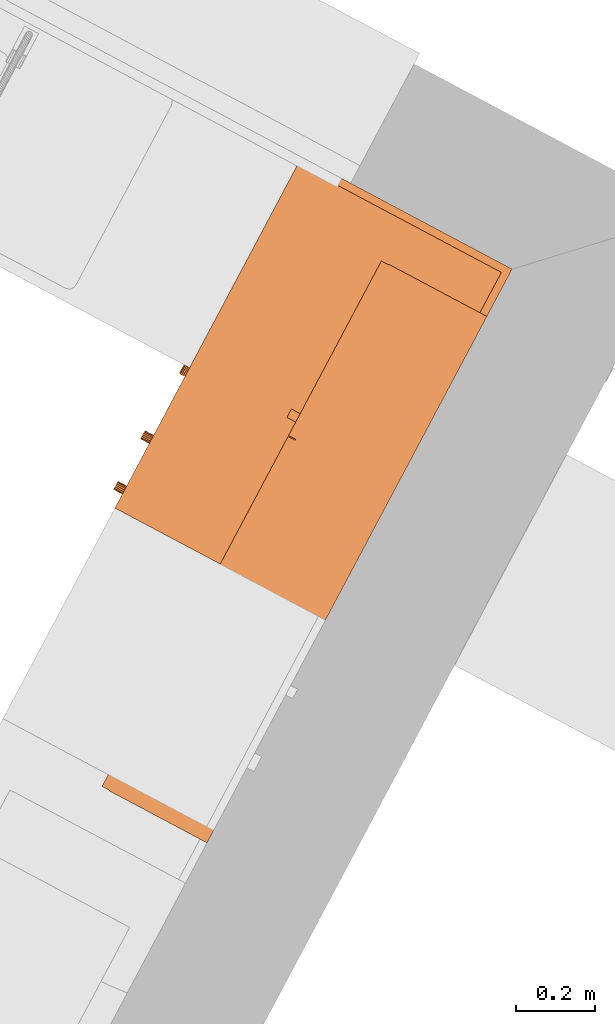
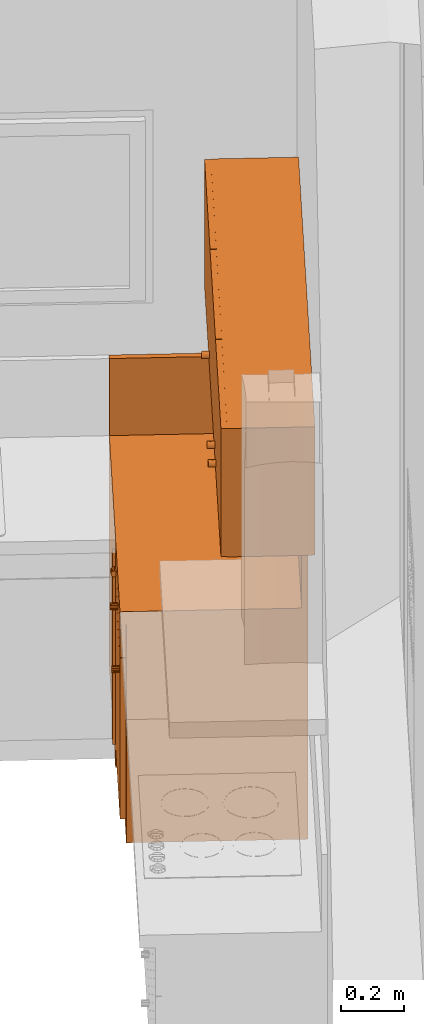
# One storey, part 25 of 27: 2 proxies.
"""IFC2X3 building model written with IfcOpenShell, lengths in metres."""

import ifcopenshell
import ifcopenshell.guid

model = None  # the IFC model being written
_history = None  # IfcOwnerHistory: only IFC2X3 demands one
_inside = {}  # id of a spatial element -> (the spatial element, [elements in it])
_under = {}  # id of a project, library or spatial element -> (it, [spatial elements below it])
_declared = {}  # id of a project -> (the project, [libraries it declares])
_typed = {}  # id of a type object -> (the type object, [elements of that type])
_made_of = {}  # id of a material, layer set ... -> (it, [elements and type objects made of it])


def new_model(schema):
    """Start an empty IFC model of exactly this schema.

    Asked for "IFC4X3", IfcOpenShell would pick the latest addendum, in which some entities
    have other attributes; the version numbers below select the first issue.
    IFC2X3 requires an IfcOwnerHistory on every rooted entity: one is made here for all.
    """
    global model, _history
    if schema == "IFC4X3":
        model = ifcopenshell.file(schema_version=(4, 3, 0, 0))
    else:
        model = ifcopenshell.file(schema=schema)
    _inside.clear()
    _under.clear()
    _declared.clear()
    _typed.clear()
    _made_of.clear()
    _history = None
    if model.schema == "IFC2X3":
        org = make("IfcOrganization", Name="unknown")
        user = make(
            "IfcPersonAndOrganization",
            ThePerson=make("IfcPerson", FamilyName="unknown"),
            TheOrganization=org,
        )
        app = make(
            "IfcApplication",
            ApplicationDeveloper=org,
            Version="unknown",
            ApplicationFullName="unknown",
            ApplicationIdentifier="unknown",
        )
        _history = make(
            "IfcOwnerHistory",
            OwningUser=user,
            OwningApplication=app,
            ChangeAction="ADDED",
            CreationDate=0,
        )
    return model


def make(cls, **values):
    """One entity of the class cls with the attributes given. An attribute that is None is left unset."""
    return model.create_entity(
        cls, **{name: value for name, value in values.items() if value is not None}
    )


def entity(cls, *values):
    """Any entity or typed value of the class cls, its attributes in the order of the schema. None: left unset."""
    e = model.create_entity(cls)
    for i, value in enumerate(values):
        if value is not None:
            e[i] = value
    return e


def rooted(cls, **values):
    """An entity with a GlobalId (a new one), such as an element, a storey or a relation."""
    return make(cls, GlobalId=ifcopenshell.guid.new(), OwnerHistory=_history, **values)


def si_unit(unit_type, name, prefix=None):
    """IfcSIUnit, for example si_unit("LENGTHUNIT", "METRE", prefix="MILLI")."""
    return make("IfcSIUnit", UnitType=unit_type, Prefix=prefix, Name=name)


def converted_unit(unit_type, name, factor, base, dimensions=None, offset=None):
    """IfcConversionBasedUnit, such as the inch: factor (a typed value) times the base unit."""
    return make(
        "IfcConversionBasedUnit"
        if offset is None
        else "IfcConversionBasedUnitWithOffset",
        ConversionOffset=offset,
        Dimensions=None
        if dimensions is None
        else entity("IfcDimensionalExponents", *dimensions),
        UnitType=unit_type,
        Name=name,
        ConversionFactor=make(
            "IfcMeasureWithUnit", ValueComponent=factor, UnitComponent=base
        ),
    )


def derived_unit(unit_type, elements):
    """IfcDerivedUnit: a product of units, each with its exponent."""
    return make(
        "IfcDerivedUnit",
        Elements=[
            make("IfcDerivedUnitElement", Unit=unit, Exponent=power)
            for unit, power in elements
        ],
        UnitType=unit_type,
    )


def money_unit(currency):
    """IfcMonetaryUnit."""
    return make("IfcMonetaryUnit", Currency=currency)


def assignment(units):
    """IfcUnitAssignment: the units of a project."""
    return None if units is None else make("IfcUnitAssignment", Units=units)


def point(xyz):
    """IfcCartesianPoint."""
    return None if xyz is None else make("IfcCartesianPoint", Coordinates=xyz)


def direction(xyz):
    """IfcDirection."""
    return None if xyz is None else make("IfcDirection", DirectionRatios=xyz)


def frame(location, z_axis=None, x_axis=None):
    """IfcAxis2Placement3D, a coordinate frame: its origin and axes. An axis left out is left unset."""
    return make(
        "IfcAxis2Placement3D",
        Location=point(location),
        Axis=direction(z_axis),
        RefDirection=direction(x_axis),
    )


def origin_with_axes():
    """The frame at (0, 0, 0) with the z axis (0, 0, 1) and the x axis (1, 0, 0) written out."""
    return frame((0.0, 0.0, 0.0), z_axis=(0.0, 0.0, 1.0), x_axis=(1.0, 0.0, 0.0))


def place(relative_to, where):
    """IfcLocalPlacement: puts the frame where relative to a parent placement (None: the world)."""
    return make(
        "IfcLocalPlacement", PlacementRelTo=relative_to, RelativePlacement=where
    )


def context(
    kind, dimensions, precision=None, world=None, true_north=None, identifier=None
):
    """IfcGeometricRepresentationContext, for example the 3D "Model" context."""
    return make(
        "IfcGeometricRepresentationContext",
        ContextIdentifier=identifier,
        ContextType=kind,
        CoordinateSpaceDimension=dimensions,
        Precision=precision,
        WorldCoordinateSystem=world,
        TrueNorth=true_north,
    )


def subcontext(parent, identifier, kind, view, scale=None):
    """IfcGeometricRepresentationSubContext, for example "Body" below "Model"."""
    return make(
        "IfcGeometricRepresentationSubContext",
        ContextIdentifier=identifier,
        ContextType=kind,
        ParentContext=parent,
        TargetScale=scale,
        TargetView=view,
    )


def project(units=None, contexts=None):
    """IfcProject with its units and contexts."""
    return rooted(
        "IfcProject",
        Name="project",
        RepresentationContexts=contexts,
        UnitsInContext=assignment(units),
    )


def spatial(cls, under=None, at=None, **own):
    """A site, building, storey or space (cls), placed at a placement, below another one or the project."""
    s = rooted(cls, ObjectPlacement=at, **own)
    if under is not None:
        _under.setdefault(under.id(), (under, []))[1].append(s)
    return s


def faces_of(points, faces, orient=None, outer=None):
    """IfcFace entities. A face is a list of loops; a loop is a list of indices into points, from 0.

    orient and outer hold one flag for each loop. By default every Orientation is true, the
    first loop of a face is its IfcFaceOuterBound and the others are IfcFaceBound.
    """
    made = []
    for i, loops in enumerate(faces):
        bounds = []
        for j, loop in enumerate(loops):
            is_outer = j == 0 if outer is None else outer[i][j]
            bounds.append(
                make(
                    "IfcFaceOuterBound" if is_outer else "IfcFaceBound",
                    Bound=make("IfcPolyLoop", Polygon=[points[k] for k in loop]),
                    Orientation=True if orient is None else orient[i][j],
                )
            )
        made.append(make("IfcFace", Bounds=bounds))
    return made


def open_shell(faces, orient=None, outer=None):
    """The faces of one IfcOpenShell. surface_model builds it on its shared points."""
    return ("IfcOpenShell", faces, orient, outer)


def faceted_brep(points, faces, orient=None, outer=None, voids=None):
    """IfcFacetedBrep: a solid bounded by flat faces; with voids (closed shells), ...WithVoids."""
    shared = [point(p) for p in points]
    hull = make("IfcClosedShell", CfsFaces=faces_of(shared, faces, orient, outer))
    if voids is None:
        return make("IfcFacetedBrep", Outer=hull)
    return make(
        "IfcFacetedBrepWithVoids",
        Outer=hull,
        Voids=[
            make(cls, CfsFaces=faces_of(shared, fs, o, b)) for cls, fs, o, b in voids
        ],
    )


def surface_model(cls, points, shells):
    """IfcFaceBasedSurfaceModel or IfcShellBasedSurfaceModel (cls): surfaces that need not close."""
    shared = [point(p) for p in points]
    made = [make(c, CfsFaces=faces_of(shared, fs, o, b)) for c, fs, o, b in shells]
    if cls == "IfcFaceBasedSurfaceModel":
        return make(cls, FbsmFaces=made)
    return make(cls, SbsmBoundary=made)


def shape(context_of_items, identifier, shape_type, items):
    """IfcShapeRepresentation: the items that make up one representation, for example the "Body"."""
    return make(
        "IfcShapeRepresentation",
        ContextOfItems=context_of_items,
        RepresentationIdentifier=identifier,
        RepresentationType=shape_type,
        Items=items,
    )


def made_of(thing, what):
    """Note that an element or type object is made of a material, layer set ...; save() writes the relation."""
    if what is not None:
        _made_of.setdefault(what.id(), (what, []))[1].append(thing)
    return thing


def type_object(cls, material=None, **own):
    """A type object (cls), such as IfcWallType, which elements share."""
    return made_of(rooted(cls, **own), material)


def element(
    cls,
    number,
    at=None,
    inside=None,
    cuts=None,
    type_object=None,
    material=None,
    context=None,
    identifier="Body",
    shape_type=None,
    held_by="IfcProductDefinitionShape",
    body=None,
    shapes=None,
    **own,
):
    """One element of the class cls, such as IfcWall. Its Tag is "e" and its number.

    at: its placement. inside: the storey or other place that contains it. cuts: it is an
    opening in that element (IfcRelVoidsElement). A single representation is given by context,
    identifier, shape_type and body (its items); several are given by shapes. held_by: the class
    of the entity that holds the representations. save() writes the other relations.
    """
    e = rooted(cls, Tag="e%d" % number, ObjectPlacement=at, **own)
    if body is not None:
        shapes = [shape(context, identifier, shape_type, body)]
    if shapes is not None:
        e.Representation = make(held_by, Representations=shapes)
    if inside is not None:
        _inside.setdefault(inside.id(), (inside, []))[1].append(e)
    if cuts is not None:
        rooted(
            "IfcRelVoidsElement", RelatingBuildingElement=cuts, RelatedOpeningElement=e
        )
    if type_object is not None:
        _typed.setdefault(type_object.id(), (type_object, []))[1].append(e)
    return made_of(e, material)


def aggregate(whole, parts):
    """IfcRelAggregates: a whole, such as a stair, and the parts it consists of."""
    return rooted("IfcRelAggregates", RelatingObject=whole, RelatedObjects=parts)


def save(model, path):
    """Write the relations noted so far, then the file.

    IfcRelAggregates (storeys below a building ...), IfcRelContainedInSpatialStructure (elements
    in a storey), IfcRelDefinesByType, IfcRelAssociatesMaterial and IfcRelDeclares: one each for
    every whole, place, type object, material and project.
    """
    for whole, parts in _under.values():
        aggregate(whole, parts)
    for where, things in _inside.values():
        rooted(
            "IfcRelContainedInSpatialStructure",
            RelatedElements=things,
            RelatingStructure=where,
        )
    for kind, things in _typed.values():
        rooted("IfcRelDefinesByType", RelatedObjects=things, RelatingType=kind)
    for what, things in _made_of.values():
        rooted("IfcRelAssociatesMaterial", RelatedObjects=things, RelatingMaterial=what)
    for by, libraries in _declared.values():
        rooted("IfcRelDeclares", RelatingContext=by, RelatedDefinitions=libraries)
    model.write(path)


model = new_model("IFC2X3")

# Units and contexts
model_context = context("Model", 3, precision=1e-05, world=origin_with_axes(), true_north=direction((0.0, 1.0)))
body_context = subcontext(model_context, "Body", "Model", "MODEL_VIEW")
ifc_project = project(units=[si_unit("LENGTHUNIT", "METRE"), si_unit("AREAUNIT", "SQUARE_METRE"), si_unit("VOLUMEUNIT", "CUBIC_METRE"), converted_unit("PLANEANGLEUNIT", "DEGREE", entity("IfcPlaneAngleMeasure", 0.0174532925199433), si_unit("PLANEANGLEUNIT", "RADIAN"), dimensions=[0, 0, 0, 0, 0, 0, 0]), money_unit("CHF"), converted_unit("TIMEUNIT", "Year", entity("IfcTimeMeasure", 31557600.0), si_unit("TIMEUNIT", "SECOND"), dimensions=[0, 0, 1, 0, 0, 0, 0]), si_unit("MASSUNIT", "GRAM", prefix="KILO"), si_unit("THERMODYNAMICTEMPERATUREUNIT", "DEGREE_CELSIUS"), si_unit("LUMINOUSINTENSITYUNIT", "LUMEN"), si_unit("ENERGYUNIT", "JOULE", prefix="MEGA"), derived_unit("THERMALCONDUCTANCEUNIT", [(si_unit("POWERUNIT", "WATT"), 1), (si_unit("LENGTHUNIT", "METRE"), -1), (si_unit("THERMODYNAMICTEMPERATUREUNIT", "KELVIN"), -1)]), derived_unit("SPECIFICHEATCAPACITYUNIT", [(si_unit("ENERGYUNIT", "JOULE"), 1), (si_unit("MASSUNIT", "GRAM", prefix="KILO"), -1), (si_unit("THERMODYNAMICTEMPERATUREUNIT", "KELVIN"), -1)]), derived_unit("MASSDENSITYUNIT", [(si_unit("MASSUNIT", "GRAM", prefix="KILO"), 1), (si_unit("VOLUMEUNIT", "CUBIC_METRE"), -1)])], contexts=[model_context])

# Site, building, storey
site_placement = place(None, frame((0.0, 0.0, 0.0), z_axis=(0.0, 0.0, 1.0), x_axis=(-0.4694715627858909, -0.8829475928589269, 0.0)))
site = spatial("IfcSite", under=ifc_project, at=site_placement, Name="Site", CompositionType="ELEMENT")
building_placement = place(site_placement, origin_with_axes())
building = spatial("IfcBuilding", under=site, at=building_placement, Name="Bâtiment", CompositionType="ELEMENT")
storey_placement = place(building_placement, origin_with_axes())
storey = spatial("IfcBuildingStorey", under=building, at=storey_placement, Name="RDC", CompositionType="ELEMENT", Elevation=0.0)

# Proxies
building_element_proxy_type_1 = type_object("IfcBuildingElementProxyType", Name="Elément bas d'angle L 24", PredefinedType="NOTDEFINED")
proxy_1_placement = place(storey_placement, frame((134.0295710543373, -829.63459910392, 0.0), z_axis=(0.0, 0.0, 1.0), x_axis=(1.0, 0.0, 0.0)))
element("IfcBuildingElementProxy", 1, at=proxy_1_placement, inside=storey, type_object=building_element_proxy_type_1, Name="Obj.-483", context=body_context, shape_type="SurfaceModel", body=[
    faceted_brep([(0.0, 0.0, 0.0), (0.5799999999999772, 0.0, 0.0), (0.5799999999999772, 0.0, 0.09), (0.0, 0.0, 0.09), (0.0, 0.6000000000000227, 0.0), (1.0, 0.6000000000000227, 0.0), (1.0, 0.02000000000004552, 0.0), (0.5799999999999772, 0.02000000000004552, 0.0), (0.5799999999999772, 0.02000000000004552, 0.09), (1.0, 0.02000000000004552, 0.09), (1.0, 0.6000000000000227, 0.09), (0.0, 0.6000000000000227, 0.09)], [[[0, 1, 2, 3]], [[0, 4, 5, 6, 7, 1]], [[1, 7, 8, 2]], [[3, 2, 8, 9, 10, 11]], [[4, 0, 3, 11]], [[5, 4, 11, 10]], [[6, 5, 10, 9]], [[7, 6, 9, 8]]]),
    surface_model("IfcShellBasedSurfaceModel", [(0.0, 0.0, 0.09), (0.5799999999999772, 0.0, 0.09), (0.5799999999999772, 0.0, 0.11), (0.0, 0.0, 0.11), (0.0, 0.02, 0.09), (0.0, 0.5800000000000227, 0.09), (0.0, 0.6000000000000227, 0.09), (1.0, 0.6000000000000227, 0.09), (1.0, 0.02000000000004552, 0.09), (0.98, 0.02000000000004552, 0.09), (0.6099999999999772, 0.02000000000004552, 0.09), (0.5799999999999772, 0.02000000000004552, 0.09), (0.5799999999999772, 0.02, 0.09), (0.5799999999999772, 0.02, 0.11), (0.6099999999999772, 0.02000000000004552, 0.11), (0.98, 0.02000000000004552, 0.11), (1.0, 0.02000000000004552, 0.11), (1.0, 0.6000000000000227, 0.11), (0.0, 0.6000000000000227, 0.11), (0.0, 0.5800000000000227, 0.11), (0.0, 0.02, 0.11), (0.5799999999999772, 0.02000000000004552, 0.11), (0.5799999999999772, -0.009999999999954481, 0.09), (0.5799999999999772, -0.009999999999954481, 0.11)], [open_shell([[[0, 1, 2, 3]], [[0, 4, 5, 6, 7, 8, 9, 10, 11, 1]], [[1, 12, 13, 2]], [[3, 2, 13, 14, 15, 16, 17, 18, 19, 20]], [[4, 0, 3, 20]], [[5, 4, 20, 19]], [[6, 5, 19, 18]], [[7, 6, 18, 17]], [[8, 7, 17, 16]], [[9, 8, 16, 15]], [[10, 9, 15, 14]], [[11, 10, 14, 21]], [[22, 11, 21, 23]], [[12, 22, 23, 13]]])]),
    faceted_brep([(0.0, 0.0, 0.11), (0.5799999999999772, 0.0, 0.11), (0.5799999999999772, 0.0, 0.83), (0.0, 0.0, 0.83), (0.0, 0.6000000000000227, 0.11), (1.0, 0.6000000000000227, 0.11), (1.0, 0.02000000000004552, 0.11), (0.98, 0.02000000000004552, 0.11), (0.98, 0.5800000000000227, 0.11), (0.02, 0.5800000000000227, 0.11), (0.02, 0.02, 0.11), (0.5799999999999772, 0.02, 0.11), (0.5799999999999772, 0.02, 0.83), (0.02, 0.02, 0.83), (0.02, 0.5800000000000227, 0.83), (0.98, 0.5800000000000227, 0.83), (0.98, 0.02000000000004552, 0.83), (1.0, 0.02000000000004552, 0.83), (1.0, 0.6000000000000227, 0.83), (0.0, 0.6000000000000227, 0.83)], [[[0, 1, 2, 3]], [[0, 4, 5, 6, 7, 8, 9, 10, 11, 1]], [[1, 11, 12, 2]], [[3, 2, 12, 13, 14, 15, 16, 17, 18, 19]], [[4, 0, 3, 19]], [[5, 4, 19, 18]], [[6, 5, 18, 17]], [[7, 6, 17, 16]], [[8, 7, 16, 15]], [[9, 8, 15, 14]], [[10, 9, 14, 13]], [[11, 10, 13, 12]]]),
    faceted_brep([(0.5599999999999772, -0.009999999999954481, 0.11), (0.5799999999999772, -0.009999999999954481, 0.11), (0.5799999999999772, -0.009999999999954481, 0.83), (0.5599999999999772, -0.009999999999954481, 0.83), (0.5599999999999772, 0.04000000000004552, 0.11), (0.6099999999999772, 0.04000000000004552, 0.11), (0.6099999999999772, 0.02000000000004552, 0.11), (0.5799999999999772, 0.02000000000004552, 0.11), (0.5799999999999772, 0.02000000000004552, 0.83), (0.6099999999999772, 0.02000000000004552, 0.83), (0.6099999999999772, 0.04000000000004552, 0.83), (0.5599999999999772, 0.04000000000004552, 0.83)], [[[0, 1, 2, 3]], [[0, 4, 5, 6, 7, 1]], [[1, 7, 8, 2]], [[3, 2, 8, 9, 10, 11]], [[4, 0, 3, 11]], [[5, 4, 11, 10]], [[6, 5, 10, 9]], [[7, 6, 9, 8]]]),
    surface_model("IfcShellBasedSurfaceModel", [(0.0, 0.0, 0.83), (0.5799999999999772, 0.0, 0.83), (0.5799999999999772, 0.0, 0.85), (0.0, 0.0, 0.85), (0.0, 0.02, 0.83), (0.0, 0.5800000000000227, 0.83), (0.0, 0.6000000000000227, 0.83), (1.0, 0.6000000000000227, 0.83), (1.0, 0.02000000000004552, 0.83), (0.98, 0.02000000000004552, 0.83), (0.6099999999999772, 0.02000000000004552, 0.83), (0.5799999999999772, 0.02000000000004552, 0.83), (0.5799999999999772, 0.02, 0.83), (0.5799999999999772, 0.02, 0.85), (0.6099999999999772, 0.02000000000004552, 0.85), (0.98, 0.02000000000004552, 0.85), (1.0, 0.02000000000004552, 0.85), (1.0, 0.6000000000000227, 0.85), (0.0, 0.6000000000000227, 0.85), (0.0, 0.5800000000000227, 0.85), (0.0, 0.02, 0.85), (0.5799999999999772, 0.02000000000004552, 0.85), (0.5799999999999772, -0.009999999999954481, 0.83), (0.5799999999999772, -0.009999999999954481, 0.85)], [open_shell([[[0, 1, 2, 3]], [[0, 4, 5, 6, 7, 8, 9, 10, 11, 1]], [[1, 12, 13, 2]], [[3, 2, 13, 14, 15, 16, 17, 18, 19, 20]], [[4, 0, 3, 20]], [[5, 4, 20, 19]], [[6, 5, 19, 18]], [[7, 6, 18, 17]], [[8, 7, 17, 16]], [[9, 8, 16, 15]], [[10, 9, 15, 14]], [[11, 10, 14, 21]], [[22, 11, 21, 23]], [[12, 22, 23, 13]]])]),
    faceted_brep([(0.0, 0.0, 0.85), (0.6, 0.0, 0.85), (0.6, 0.0, 0.9), (0.0, 0.0, 0.9), (0.0, 0.6000000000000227, 0.85), (1.0, 0.6000000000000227, 0.85), (1.0, 0.0, 0.85), (1.0, 0.0, 0.9), (1.0, 0.6000000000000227, 0.9), (0.0, 0.6000000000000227, 0.9)], [[[0, 1, 2, 3]], [[0, 4, 5, 6, 1]], [[1, 6, 7, 2]], [[3, 2, 7, 8, 9]], [[4, 0, 3, 9]], [[5, 4, 9, 8]], [[6, 5, 8, 7]]]),
    faceted_brep([(0.0, 0.0, 0.9), (0.02, 0.0, 0.9), (0.02, 0.0, 1.2), (0.0, 0.0, 1.2), (0.0, 0.6000000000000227, 0.9), (1.0, 0.6000000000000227, 0.9), (1.0, 0.5800000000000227, 0.9), (0.02, 0.5800000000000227, 0.9), (0.02, 0.5800000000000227, 1.2), (1.0, 0.5800000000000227, 1.2), (1.0, 0.6000000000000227, 1.2), (0.0, 0.6000000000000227, 1.2)], [[[0, 1, 2, 3]], [[0, 4, 5, 6, 7, 1]], [[1, 7, 8, 2]], [[3, 2, 8, 9, 10, 11]], [[4, 0, 3, 11]], [[5, 4, 11, 10]], [[6, 5, 10, 9]], [[7, 6, 9, 8]]]),
    faceted_brep([(0.02000000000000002, 0.02000000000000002, 0.73), (0.02000000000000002, 0.02000000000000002, 0.71), (0.5599999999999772, 0.02000000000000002, 0.71), (0.5599999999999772, 0.02000000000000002, 0.73), (0.02000000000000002, 0.5800000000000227, 0.73), (0.02000000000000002, 0.5800000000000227, 0.71), (0.5599999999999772, 0.04000000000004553, 0.71), (0.98, 0.5800000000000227, 0.71), (0.98, 0.02000000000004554, 0.71), (0.6099999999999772, 0.02000000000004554, 0.71), (0.6099999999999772, 0.04000000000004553, 0.71), (0.5599999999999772, 0.04000000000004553, 0.73), (0.6099999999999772, 0.04000000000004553, 0.73), (0.6099999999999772, 0.02000000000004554, 0.73), (0.98, 0.02000000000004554, 0.73), (0.98, 0.5800000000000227, 0.73)], [[[0, 1, 2, 3]], [[1, 0, 4, 5]], [[6, 2, 1, 5, 7, 8, 9, 10]], [[2, 6, 11, 3]], [[4, 0, 3, 11, 12, 13, 14, 15]], [[5, 4, 15, 7]], [[8, 7, 15, 14]], [[9, 8, 14, 13]], [[9, 13, 12, 10]], [[11, 6, 10, 12]]]),
    faceted_brep([(0.5599999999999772, 0.02000000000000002, 0.405), (0.5599999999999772, 0.04000000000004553, 0.405), (0.6099999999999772, 0.04000000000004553, 0.405), (0.6099999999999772, 0.02000000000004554, 0.405), (0.98, 0.02000000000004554, 0.405), (0.98, 0.5800000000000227, 0.405), (0.02000000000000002, 0.5800000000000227, 0.405), (0.02000000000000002, 0.02000000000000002, 0.405), (0.5599999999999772, 0.02000000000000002, 0.385), (0.5599999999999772, 0.04000000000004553, 0.385), (0.6099999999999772, 0.04000000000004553, 0.385), (0.6099999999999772, 0.02000000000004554, 0.385), (0.98, 0.02000000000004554, 0.385), (0.98, 0.5800000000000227, 0.385), (0.02000000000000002, 0.5800000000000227, 0.385), (0.02000000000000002, 0.02000000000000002, 0.385)], [[[0, 1, 2, 3, 4, 5, 6, 7]], [[1, 0, 8, 9]], [[2, 1, 9, 10]], [[3, 2, 10, 11]], [[3, 11, 12, 4]], [[13, 5, 4, 12]], [[14, 6, 5, 13]], [[15, 7, 6, 14]], [[8, 0, 7, 15]], [[9, 8, 15, 14, 13, 12, 11, 10]]]),
    faceted_brep([(0.5999999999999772, 0.0003422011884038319, 0.7960865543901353), (0.5999999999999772, 0.004235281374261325, 0.7934852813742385), (0.5999999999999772, 0.006836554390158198, 0.789592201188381), (0.5999999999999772, 0.007750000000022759, 0.7849999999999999), (0.5999999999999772, 0.006836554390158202, 0.7804077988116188), (0.5999999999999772, 0.004235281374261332, 0.7765147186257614), (0.5999999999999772, 0.0003422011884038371, 0.7739134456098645), (0.5999999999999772, -0.004249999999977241, 0.7729999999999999), (0.5999999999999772, -0.008842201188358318, 0.7739134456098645), (0.5999999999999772, -0.01273528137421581, 0.7765147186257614), (0.5999999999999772, -0.01533655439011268, 0.7804077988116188), (0.5999999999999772, -0.01624999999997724, 0.7849999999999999), (0.5999999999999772, -0.01533655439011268, 0.789592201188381), (0.5999999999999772, -0.01273528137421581, 0.7934852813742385), (0.5999999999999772, -0.00884220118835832, 0.7960865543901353), (0.5999999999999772, -0.004249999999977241, 0.7969999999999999), (0.6249999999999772, 0.0003422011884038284, 0.7960865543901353), (0.6249999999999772, 0.004235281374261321, 0.7934852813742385), (0.6249999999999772, 0.006836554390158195, 0.789592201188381), (0.6249999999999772, 0.007750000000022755, 0.7849999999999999), (0.6249999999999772, 0.006836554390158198, 0.7804077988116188), (0.6249999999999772, 0.004235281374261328, 0.7765147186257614), (0.6249999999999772, 0.0003422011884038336, 0.7739134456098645), (0.6249999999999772, -0.004249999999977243, 0.7729999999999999), (0.6249999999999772, -0.008842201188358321, 0.7739134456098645), (0.6249999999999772, -0.01273528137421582, 0.7765147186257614), (0.6249999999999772, -0.01533655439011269, 0.7804077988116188), (0.6249999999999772, -0.01624999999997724, 0.7849999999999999), (0.6249999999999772, -0.01533655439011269, 0.789592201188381), (0.6249999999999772, -0.01273528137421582, 0.7934852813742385), (0.6249999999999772, -0.008842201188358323, 0.7960865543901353), (0.6249999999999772, -0.004249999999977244, 0.7969999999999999)], [[[0, 1, 2, 3, 4, 5, 6, 7, 8, 9, 10, 11, 12, 13, 14, 15]], [[1, 0, 16, 17]], [[2, 1, 17, 18]], [[3, 2, 18, 19]], [[4, 3, 19, 20]], [[5, 4, 20, 21]], [[6, 5, 21, 22]], [[7, 6, 22, 23]], [[8, 7, 23, 24]], [[9, 8, 24, 25]], [[10, 9, 25, 26]], [[11, 10, 26, 27]], [[12, 11, 27, 28]], [[13, 12, 28, 29]], [[14, 13, 29, 30]], [[15, 14, 30, 31]], [[0, 15, 31, 16]], [[16, 31, 30, 29, 28, 27, 26, 25, 24, 23, 22, 21, 20, 19, 18, 17]]]),
    faceted_brep([(0.6099999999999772, 0.02000000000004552, 0.7214999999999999), (0.9984999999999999, 0.02000000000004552, 0.7214999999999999), (0.9984999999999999, 0.0, 0.7214999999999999), (0.6099999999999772, 0.0, 0.7214999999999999), (0.6099999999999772, 0.02000000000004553, 0.8484999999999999), (0.9984999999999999, 0.02000000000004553, 0.8484999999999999), (0.9984999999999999, 0.0, 0.8484999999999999), (0.6099999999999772, 0.0, 0.8484999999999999)], [[[0, 1, 2, 3]], [[0, 4, 5, 1]], [[1, 5, 6, 2]], [[3, 2, 6, 7]], [[4, 0, 3, 7]], [[5, 4, 7, 6]]]),
    faceted_brep([(0.8088422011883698, 0.0, 0.7960865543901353), (0.8127352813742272, 0.0, 0.7934852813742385), (0.8153365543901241, 0.0, 0.789592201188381), (0.8162499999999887, 0.0, 0.7849999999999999), (0.8153365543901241, 0.0, 0.7804077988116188), (0.8127352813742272, 0.0, 0.7765147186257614), (0.8088422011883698, 0.0, 0.7739134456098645), (0.8042499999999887, 0.0, 0.7729999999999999), (0.7996577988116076, 0.0, 0.7739134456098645), (0.7957647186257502, 0.0, 0.7765147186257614), (0.7931634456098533, 0.0, 0.7804077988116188), (0.7922499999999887, 0.0, 0.7849999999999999), (0.7931634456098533, 0.0, 0.789592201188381), (0.7957647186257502, 0.0, 0.7934852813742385), (0.7996577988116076, 0.0, 0.7960865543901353), (0.8042499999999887, 0.0, 0.7969999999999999), (0.8088422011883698, -0.02499999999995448, 0.7960865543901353), (0.8127352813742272, -0.02499999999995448, 0.7934852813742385), (0.8153365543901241, -0.02499999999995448, 0.789592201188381), (0.8162499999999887, -0.02499999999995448, 0.7849999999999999), (0.8153365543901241, -0.02499999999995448, 0.7804077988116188), (0.8127352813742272, -0.02499999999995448, 0.7765147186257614), (0.8088422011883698, -0.02499999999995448, 0.7739134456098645), (0.8042499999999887, -0.02499999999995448, 0.7729999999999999), (0.7996577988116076, -0.02499999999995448, 0.7739134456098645), (0.7957647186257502, -0.02499999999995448, 0.7765147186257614), (0.7931634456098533, -0.02499999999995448, 0.7804077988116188), (0.7922499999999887, -0.02499999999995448, 0.7849999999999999), (0.7931634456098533, -0.02499999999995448, 0.789592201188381), (0.7957647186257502, -0.02499999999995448, 0.7934852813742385), (0.7996577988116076, -0.02499999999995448, 0.7960865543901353), (0.8042499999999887, -0.02499999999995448, 0.7969999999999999)], [[[0, 1, 2, 3, 4, 5, 6, 7, 8, 9, 10, 11, 12, 13, 14, 15]], [[1, 0, 16, 17]], [[2, 1, 17, 18]], [[3, 2, 18, 19]], [[4, 3, 19, 20]], [[5, 4, 20, 21]], [[6, 5, 21, 22]], [[7, 6, 22, 23]], [[8, 7, 23, 24]], [[9, 8, 24, 25]], [[10, 9, 25, 26]], [[11, 10, 26, 27]], [[12, 11, 27, 28]], [[13, 12, 28, 29]], [[14, 13, 29, 30]], [[15, 14, 30, 31]], [[0, 15, 31, 16]], [[16, 31, 30, 29, 28, 27, 26, 25, 24, 23, 22, 21, 20, 19, 18, 17]]]),
    faceted_brep([(0.6099999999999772, 0.02000000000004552, 0.0915), (0.9984999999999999, 0.02000000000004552, 0.0915), (0.9984999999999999, 0.0, 0.0915), (0.6099999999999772, 0.0, 0.0915), (0.6099999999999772, 0.02000000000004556, 0.7185), (0.9984999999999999, 0.02000000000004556, 0.7185), (0.9984999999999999, 0.0, 0.7185), (0.6099999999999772, 0.0, 0.7185)], [[[0, 1, 2, 3]], [[0, 4, 5, 1]], [[1, 5, 6, 2]], [[3, 2, 6, 7]], [[4, 0, 3, 7]], [[5, 4, 7, 6]]]),
    faceted_brep([(0.9595865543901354, 0.0, 0.636907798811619), (0.9569852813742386, 0.0, 0.6330147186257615), (0.9530922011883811, 0.0, 0.6304134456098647), (0.9485, 0.0, 0.6295000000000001), (0.9439077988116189, 0.0, 0.6304134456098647), (0.9400147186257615, 0.0, 0.6330147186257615), (0.9374134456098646, 0.0, 0.636907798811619), (0.9365, 0.0, 0.6415000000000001), (0.9374134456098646, 0.0, 0.6460922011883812), (0.9400147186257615, 0.0, 0.6499852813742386), (0.9439077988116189, 0.0, 0.6525865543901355), (0.9485, 0.0, 0.6535000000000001), (0.9530922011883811, 0.0, 0.6525865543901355), (0.9569852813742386, 0.0, 0.6499852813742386), (0.9595865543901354, 0.0, 0.6460922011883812), (0.9605, 0.0, 0.6415000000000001), (0.9595865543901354, -0.02499999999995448, 0.636907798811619), (0.9569852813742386, -0.02499999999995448, 0.6330147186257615), (0.9530922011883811, -0.02499999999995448, 0.6304134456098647), (0.9485, -0.02499999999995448, 0.6295000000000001), (0.9439077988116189, -0.02499999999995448, 0.6304134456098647), (0.9400147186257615, -0.02499999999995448, 0.6330147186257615), (0.9374134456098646, -0.02499999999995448, 0.636907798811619), (0.9365, -0.02499999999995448, 0.6415000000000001), (0.9374134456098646, -0.02499999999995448, 0.6460922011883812), (0.9400147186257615, -0.02499999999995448, 0.6499852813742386), (0.9439077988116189, -0.02499999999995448, 0.6525865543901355), (0.9485, -0.02499999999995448, 0.6535000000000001), (0.9530922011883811, -0.02499999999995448, 0.6525865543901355), (0.9569852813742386, -0.02499999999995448, 0.6499852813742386), (0.9595865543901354, -0.02499999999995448, 0.6460922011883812), (0.9605, -0.02499999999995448, 0.6415000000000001)], [[[0, 1, 2, 3, 4, 5, 6, 7, 8, 9, 10, 11, 12, 13, 14, 15]], [[1, 0, 16, 17]], [[2, 1, 17, 18]], [[3, 2, 18, 19]], [[4, 3, 19, 20]], [[5, 4, 20, 21]], [[6, 5, 21, 22]], [[7, 6, 22, 23]], [[8, 7, 23, 24]], [[9, 8, 24, 25]], [[10, 9, 25, 26]], [[11, 10, 26, 27]], [[12, 11, 27, 28]], [[13, 12, 28, 29]], [[14, 13, 29, 30]], [[15, 14, 30, 31]], [[0, 15, 31, 16]], [[16, 31, 30, 29, 28, 27, 26, 25, 24, 23, 22, 21, 20, 19, 18, 17]]]),
])
building_element_proxy_type_2 = type_object("IfcBuildingElementProxyType", Name="Elément suspendu triple 24", PredefinedType="NOTDEFINED")
proxy_2_placement = place(storey_placement, frame((134.1644830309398, -829.3345991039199, 0.04999999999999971), z_axis=(0.0, 0.0, 1.0), x_axis=(1.0, 0.0, 0.0)))
element("IfcBuildingElementProxy", 2, at=proxy_2_placement, inside=storey, type_object=building_element_proxy_type_2, Name="Obj.-483", context=body_context, shape_type="Brep", body=[
    faceted_brep([(0.0, 0.02, 1.98), (0.02, 0.02, 1.98), (0.02, 0.02, 2.0), (0.0, 0.02, 2.0), (0.0, 0.3, 1.98), (0.02, 0.3, 1.98), (1.48, 0.3, 1.98), (1.5, 0.3, 1.98), (1.5, 0.02, 1.98), (1.48, 0.02, 1.98), (1.48, 0.02, 2.0), (1.5, 0.02, 2.0), (1.5, 0.3, 2.0), (1.48, 0.3, 2.0), (0.02, 0.3, 2.0), (0.0, 0.3, 2.0)], [[[0, 1, 2, 3]], [[0, 4, 5, 6, 7, 8, 9, 1]], [[1, 9, 10, 2]], [[3, 2, 10, 11, 12, 13, 14, 15]], [[4, 0, 3, 15]], [[5, 4, 15, 14]], [[6, 5, 14, 13]], [[7, 6, 13, 12]], [[8, 7, 12, 11]], [[9, 8, 11, 10]]]),
    faceted_brep([(0.0, 0.02, 1.5), (0.02, 0.02, 1.5), (0.02, 0.02, 1.52), (0.0, 0.02, 1.52), (0.0, 0.3, 1.5), (0.02, 0.3, 1.5), (1.48, 0.3, 1.5), (1.5, 0.3, 1.5), (1.5, 0.02, 1.5), (1.48, 0.02, 1.5), (1.48, 0.02, 1.52), (1.5, 0.02, 1.52), (1.5, 0.3, 1.52), (1.48, 0.3, 1.52), (0.02, 0.3, 1.52), (0.0, 0.3, 1.52)], [[[0, 1, 2, 3]], [[0, 4, 5, 6, 7, 8, 9, 1]], [[1, 9, 10, 2]], [[3, 2, 10, 11, 12, 13, 14, 15]], [[4, 0, 3, 15]], [[5, 4, 15, 14]], [[6, 5, 14, 13]], [[7, 6, 13, 12]], [[8, 7, 12, 11]], [[9, 8, 11, 10]]]),
    faceted_brep([(0.0, 0.02, 1.52), (0.02, 0.02, 1.52), (0.02, 0.02, 1.98), (0.0, 0.02, 1.98), (0.0, 0.3, 1.52), (1.5, 0.3, 1.52), (1.5, 0.02, 1.52), (1.48, 0.02, 1.52), (1.48, 0.28, 1.52), (0.02, 0.28, 1.52), (0.02, 0.28, 1.98), (1.48, 0.28, 1.98), (1.48, 0.02, 1.98), (1.5, 0.02, 1.98), (1.5, 0.3, 1.98), (0.0, 0.3, 1.98)], [[[0, 1, 2, 3]], [[0, 4, 5, 6, 7, 8, 9, 1]], [[1, 9, 10, 2]], [[3, 2, 10, 11, 12, 13, 14, 15]], [[4, 0, 3, 15]], [[5, 4, 15, 14]], [[6, 5, 14, 13]], [[7, 6, 13, 12]], [[8, 7, 12, 11]], [[9, 8, 11, 10]]]),
    faceted_brep([(1.48, 0.02, 1.646666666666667), (1.48, 0.28, 1.646666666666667), (1.48, 0.28, 1.666666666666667), (1.48, 0.02, 1.666666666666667), (0.02, 0.02, 1.646666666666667), (0.02, 0.28, 1.646666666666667), (0.02, 0.28, 1.666666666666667), (0.02, 0.02, 1.666666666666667)], [[[0, 1, 2, 3]], [[0, 4, 5, 1]], [[1, 5, 6, 2]], [[3, 2, 6, 7]], [[4, 0, 3, 7]], [[5, 4, 7, 6]]]),
    faceted_brep([(1.48, 0.02, 1.813333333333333), (1.48, 0.28, 1.813333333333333), (1.48, 0.28, 1.833333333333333), (1.48, 0.02, 1.833333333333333), (0.02, 0.02, 1.813333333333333), (0.02, 0.28, 1.813333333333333), (0.02, 0.28, 1.833333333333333), (0.02, 0.02, 1.833333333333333)], [[[0, 1, 2, 3]], [[0, 4, 5, 1]], [[1, 5, 6, 2]], [[3, 2, 6, 7]], [[4, 0, 3, 7]], [[5, 4, 7, 6]]]),
    faceted_brep([(0.001500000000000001, 0.02, 1.5015), (0.4985, 0.02, 1.5015), (0.4985, 0.0, 1.5015), (0.001500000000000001, 0.0, 1.5015), (0.001500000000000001, 0.02000000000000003, 1.9985), (0.4985, 0.02000000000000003, 1.9985), (0.4985, 0.0, 1.9985), (0.001500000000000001, 0.0, 1.9985)], [[[0, 1, 2, 3]], [[0, 4, 5, 1]], [[1, 5, 6, 2]], [[3, 2, 6, 7]], [[4, 0, 3, 7]], [[5, 4, 7, 6]]]),
    faceted_brep([(0.4600911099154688, 0.0, 1.54839417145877), (0.4588923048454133, 0.0, 1.5455), (0.4569852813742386, 0.0, 1.543014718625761), (0.4545, 0.0, 1.541107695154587), (0.4516058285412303, 0.0, 1.539908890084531), (0.4485, 0.0, 1.5395), (0.4453941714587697, 0.0, 1.539908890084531), (0.4425, 0.0, 1.541107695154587), (0.4400147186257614, 0.0, 1.543014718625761), (0.4381076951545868, 0.0, 1.5455), (0.4369088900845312, 0.0, 1.54839417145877), (0.4365, 0.0, 1.5515), (0.4369088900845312, 0.0, 1.55460582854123), (0.4381076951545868, 0.0, 1.5575), (0.4400147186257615, 0.0, 1.559985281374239), (0.4425, 0.0, 1.561892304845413), (0.4453941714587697, 0.0, 1.563091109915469), (0.4485, 0.0, 1.5635), (0.4516058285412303, 0.0, 1.563091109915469), (0.4545, 0.0, 1.561892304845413), (0.4569852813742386, 0.0, 1.559985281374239), (0.4588923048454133, 0.0, 1.5575), (0.4600911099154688, 0.0, 1.55460582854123), (0.4605, 0.0, 1.5515), (0.4600911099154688, -0.025, 1.54839417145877), (0.4588923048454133, -0.025, 1.5455), (0.4569852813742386, -0.025, 1.543014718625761), (0.4545, -0.025, 1.541107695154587), (0.4516058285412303, -0.025, 1.539908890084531), (0.4485, -0.025, 1.5395), (0.4453941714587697, -0.025, 1.539908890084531), (0.4425, -0.025, 1.541107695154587), (0.4400147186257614, -0.025, 1.543014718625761), (0.4381076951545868, -0.025, 1.5455), (0.4369088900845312, -0.025, 1.54839417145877), (0.4365, -0.025, 1.5515), (0.4369088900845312, -0.025, 1.55460582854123), (0.4381076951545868, -0.025, 1.5575), (0.4400147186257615, -0.025, 1.559985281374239), (0.4425, -0.025, 1.561892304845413), (0.4453941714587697, -0.025, 1.563091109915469), (0.4485, -0.025, 1.5635), (0.4516058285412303, -0.025, 1.563091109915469), (0.4545, -0.025, 1.561892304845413), (0.4569852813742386, -0.025, 1.559985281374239), (0.4588923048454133, -0.025, 1.5575), (0.4600911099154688, -0.025, 1.55460582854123), (0.4605, -0.025, 1.5515)], [[[0, 1, 2, 3, 4, 5, 6, 7, 8, 9, 10, 11, 12, 13, 14, 15, 16, 17, 18, 19, 20, 21, 22, 23]], [[1, 0, 24, 25]], [[2, 1, 25, 26]], [[3, 2, 26, 27]], [[4, 3, 27, 28]], [[5, 4, 28, 29]], [[6, 5, 29, 30]], [[7, 6, 30, 31]], [[8, 7, 31, 32]], [[9, 8, 32, 33]], [[10, 9, 33, 34]], [[11, 10, 34, 35]], [[12, 11, 35, 36]], [[13, 12, 36, 37]], [[14, 13, 37, 38]], [[15, 14, 38, 39]], [[16, 15, 39, 40]], [[17, 16, 40, 41]], [[18, 17, 41, 42]], [[19, 18, 42, 43]], [[20, 19, 43, 44]], [[21, 20, 44, 45]], [[22, 21, 45, 46]], [[23, 22, 46, 47]], [[0, 23, 47, 24]], [[24, 47, 46, 45, 44, 43, 42, 41, 40, 39, 38, 37, 36, 35, 34, 33, 32, 31, 30, 29, 28, 27, 26, 25]]]),
    faceted_brep([(1.4985, 0.02, 1.5015), (1.4985, 0.0, 1.5015), (1.0015, 0.0, 1.5015), (1.0015, 0.02, 1.5015), (1.4985, 0.02000000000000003, 1.9985), (1.4985, 0.0, 1.9985), (1.0015, 0.0, 1.9985), (1.0015, 0.02000000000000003, 1.9985)], [[[0, 1, 2, 3]], [[4, 5, 1, 0]], [[1, 5, 6, 2]], [[3, 2, 6, 7]], [[0, 3, 7, 4]], [[7, 6, 5, 4]]]),
    faceted_brep([(1.039908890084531, 0.0, 1.54839417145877), (1.0395, 0.0, 1.5515), (1.039908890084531, 0.0, 1.55460582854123), (1.041107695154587, 0.0, 1.5575), (1.043014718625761, 0.0, 1.559985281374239), (1.0455, 0.0, 1.561892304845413), (1.04839417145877, 0.0, 1.563091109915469), (1.0515, 0.0, 1.5635), (1.05460582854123, 0.0, 1.563091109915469), (1.0575, 0.0, 1.561892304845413), (1.059985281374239, 0.0, 1.559985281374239), (1.061892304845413, 0.0, 1.5575), (1.063091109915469, 0.0, 1.55460582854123), (1.0635, 0.0, 1.5515), (1.063091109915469, 0.0, 1.54839417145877), (1.061892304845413, 0.0, 1.5455), (1.059985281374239, 0.0, 1.543014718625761), (1.0575, 0.0, 1.541107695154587), (1.05460582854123, 0.0, 1.539908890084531), (1.0515, 0.0, 1.5395), (1.04839417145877, 0.0, 1.539908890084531), (1.0455, 0.0, 1.541107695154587), (1.043014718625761, 0.0, 1.543014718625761), (1.041107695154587, 0.0, 1.5455), (1.039908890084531, -0.025, 1.54839417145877), (1.0395, -0.025, 1.5515), (1.039908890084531, -0.025, 1.55460582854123), (1.041107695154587, -0.025, 1.5575), (1.043014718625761, -0.025, 1.559985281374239), (1.0455, -0.025, 1.561892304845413), (1.04839417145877, -0.025, 1.563091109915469), (1.0515, -0.025, 1.5635), (1.05460582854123, -0.025, 1.563091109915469), (1.0575, -0.025, 1.561892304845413), (1.059985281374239, -0.025, 1.559985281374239), (1.061892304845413, -0.025, 1.5575), (1.063091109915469, -0.025, 1.55460582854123), (1.0635, -0.025, 1.5515), (1.063091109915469, -0.025, 1.54839417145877), (1.061892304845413, -0.025, 1.5455), (1.059985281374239, -0.025, 1.543014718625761), (1.0575, -0.025, 1.541107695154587), (1.05460582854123, -0.025, 1.539908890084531), (1.0515, -0.025, 1.5395), (1.04839417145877, -0.025, 1.539908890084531), (1.0455, -0.025, 1.541107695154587), (1.043014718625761, -0.025, 1.543014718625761), (1.041107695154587, -0.025, 1.5455)], [[[0, 1, 2, 3, 4, 5, 6, 7, 8, 9, 10, 11, 12, 13, 14, 15, 16, 17, 18, 19, 20, 21, 22, 23]], [[0, 24, 25, 1]], [[1, 25, 26, 2]], [[2, 26, 27, 3]], [[3, 27, 28, 4]], [[4, 28, 29, 5]], [[5, 29, 30, 6]], [[6, 30, 31, 7]], [[7, 31, 32, 8]], [[8, 32, 33, 9]], [[9, 33, 34, 10]], [[10, 34, 35, 11]], [[11, 35, 36, 12]], [[12, 36, 37, 13]], [[13, 37, 38, 14]], [[14, 38, 39, 15]], [[15, 39, 40, 16]], [[16, 40, 41, 17]], [[17, 41, 42, 18]], [[18, 42, 43, 19]], [[19, 43, 44, 20]], [[20, 44, 45, 21]], [[21, 45, 46, 22]], [[22, 46, 47, 23]], [[23, 47, 24, 0]], [[24, 47, 46, 45, 44, 43, 42, 41, 40, 39, 38, 37, 36, 35, 34, 33, 32, 31, 30, 29, 28, 27, 26, 25]]]),
    faceted_brep([(0.5015000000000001, 0.02, 1.5015), (0.9984999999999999, 0.02, 1.5015), (0.9984999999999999, 0.0, 1.5015), (0.5015000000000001, 0.0, 1.5015), (0.5015000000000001, 0.02000000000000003, 1.9985), (0.9984999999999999, 0.02000000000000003, 1.9985), (0.9984999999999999, 0.0, 1.9985), (0.5015000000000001, 0.0, 1.9985)], [[[0, 1, 2, 3]], [[0, 4, 5, 1]], [[1, 5, 6, 2]], [[3, 2, 6, 7]], [[4, 0, 3, 7]], [[5, 4, 7, 6]]]),
    faceted_brep([(0.9600911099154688, 0.0, 1.54839417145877), (0.9588923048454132, 0.0, 1.5455), (0.9569852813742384, 0.0, 1.543014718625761), (0.9544999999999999, 0.0, 1.541107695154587), (0.9516058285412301, 0.0, 1.539908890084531), (0.9484999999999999, 0.0, 1.5395), (0.9453941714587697, 0.0, 1.539908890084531), (0.9424999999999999, 0.0, 1.541107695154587), (0.9400147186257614, 0.0, 1.543014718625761), (0.9381076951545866, 0.0, 1.5455), (0.936908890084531, 0.0, 1.54839417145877), (0.9364999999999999, 0.0, 1.5515), (0.936908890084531, 0.0, 1.55460582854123), (0.9381076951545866, 0.0, 1.5575), (0.9400147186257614, 0.0, 1.559985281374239), (0.9424999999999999, 0.0, 1.561892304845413), (0.9453941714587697, 0.0, 1.563091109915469), (0.9484999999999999, 0.0, 1.5635), (0.9516058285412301, 0.0, 1.563091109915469), (0.9544999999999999, 0.0, 1.561892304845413), (0.9569852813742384, 0.0, 1.559985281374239), (0.9588923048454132, 0.0, 1.5575), (0.9600911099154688, 0.0, 1.55460582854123), (0.9604999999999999, 0.0, 1.5515), (0.9600911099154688, -0.025, 1.54839417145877), (0.9588923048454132, -0.025, 1.5455), (0.9569852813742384, -0.025, 1.543014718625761), (0.9544999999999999, -0.025, 1.541107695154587), (0.9516058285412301, -0.025, 1.539908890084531), (0.9484999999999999, -0.025, 1.5395), (0.9453941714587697, -0.025, 1.539908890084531), (0.9424999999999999, -0.025, 1.541107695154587), (0.9400147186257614, -0.025, 1.543014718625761), (0.9381076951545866, -0.025, 1.5455), (0.936908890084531, -0.025, 1.54839417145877), (0.9364999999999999, -0.025, 1.5515), (0.936908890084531, -0.025, 1.55460582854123), (0.9381076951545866, -0.025, 1.5575), (0.9400147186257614, -0.025, 1.559985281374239), (0.9424999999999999, -0.025, 1.561892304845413), (0.9453941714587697, -0.025, 1.563091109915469), (0.9484999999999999, -0.025, 1.5635), (0.9516058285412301, -0.025, 1.563091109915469), (0.9544999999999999, -0.025, 1.561892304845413), (0.9569852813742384, -0.025, 1.559985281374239), (0.9588923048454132, -0.025, 1.5575), (0.9600911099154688, -0.025, 1.55460582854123), (0.9604999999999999, -0.025, 1.5515)], [[[0, 1, 2, 3, 4, 5, 6, 7, 8, 9, 10, 11, 12, 13, 14, 15, 16, 17, 18, 19, 20, 21, 22, 23]], [[1, 0, 24, 25]], [[2, 1, 25, 26]], [[3, 2, 26, 27]], [[4, 3, 27, 28]], [[5, 4, 28, 29]], [[6, 5, 29, 30]], [[7, 6, 30, 31]], [[8, 7, 31, 32]], [[9, 8, 32, 33]], [[10, 9, 33, 34]], [[11, 10, 34, 35]], [[12, 11, 35, 36]], [[13, 12, 36, 37]], [[14, 13, 37, 38]], [[15, 14, 38, 39]], [[16, 15, 39, 40]], [[17, 16, 40, 41]], [[18, 17, 41, 42]], [[19, 18, 42, 43]], [[20, 19, 43, 44]], [[21, 20, 44, 45]], [[22, 21, 45, 46]], [[23, 22, 46, 47]], [[0, 23, 47, 24]], [[24, 47, 46, 45, 44, 43, 42, 41, 40, 39, 38, 37, 36, 35, 34, 33, 32, 31, 30, 29, 28, 27, 26, 25]]]),
])

save(model, "model.ifc")
